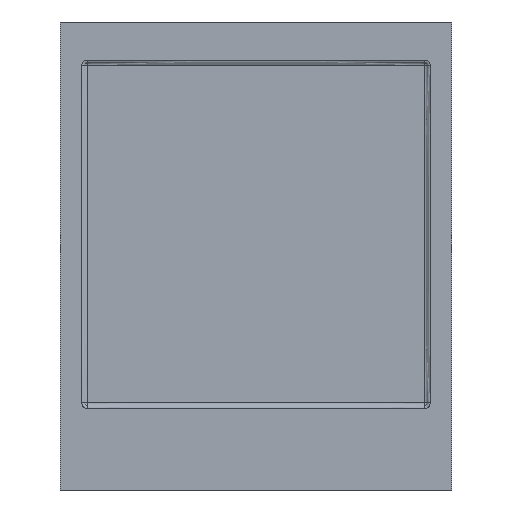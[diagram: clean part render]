
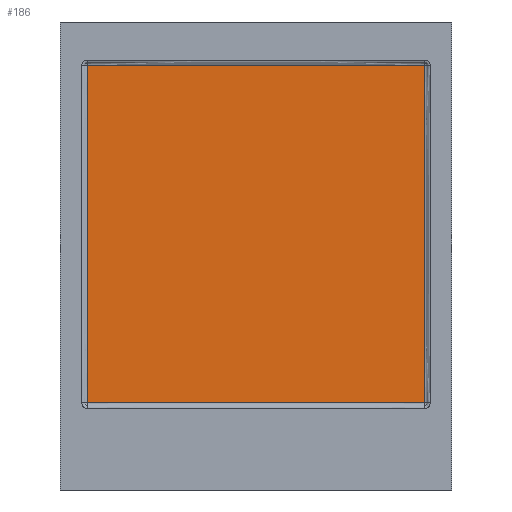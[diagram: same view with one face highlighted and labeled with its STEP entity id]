
A CAD part, front view. The second image highlights one B-rep face of the part: STEP entity #186.
In plain terms, the highlighted planar face has unit normal (0, -1, 0).
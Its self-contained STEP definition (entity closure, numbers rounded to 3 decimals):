
#186=ADVANCED_FACE('',(#290),#1632,.T.);
#290=FACE_OUTER_BOUND('',#404,.T.);
#404=EDGE_LOOP('',(#902,#903,#904,#905));
#902=ORIENTED_EDGE('',*,*,#1160,.F.);
#903=ORIENTED_EDGE('',*,*,#1157,.F.);
#904=ORIENTED_EDGE('',*,*,#1154,.F.);
#905=ORIENTED_EDGE('',*,*,#1150,.F.);
#1150=EDGE_CURVE('',#1542,#1543,#1374,.T.);
#1154=EDGE_CURVE('',#1543,#1546,#1378,.T.);
#1157=EDGE_CURVE('',#1546,#1548,#1381,.T.);
#1160=EDGE_CURVE('',#1548,#1542,#1384,.T.);
#1374=B_SPLINE_CURVE_WITH_KNOTS('',1,(#6540,#6541),.UNSPECIFIED.,.F.,.F.,
(2,2),(-4.,-3.),.UNSPECIFIED.);
#1378=B_SPLINE_CURVE_WITH_KNOTS('',1,(#6548,#6549),.UNSPECIFIED.,.F.,.F.,
(2,2),(-3.,-2.),.UNSPECIFIED.);
#1381=B_SPLINE_CURVE_WITH_KNOTS('',1,(#6554,#6555),.UNSPECIFIED.,.F.,.F.,
(2,2),(-2.,-1.),.UNSPECIFIED.);
#1384=B_SPLINE_CURVE_WITH_KNOTS('',1,(#6560,#6561),.UNSPECIFIED.,.F.,.F.,
(2,2),(-1.,0.),.UNSPECIFIED.);
#1542=VERTEX_POINT('',#6532);
#1543=VERTEX_POINT('',#6533);
#1546=VERTEX_POINT('',#6536);
#1548=VERTEX_POINT('',#6538);
#1632=PLANE('',#1804);
#1804=AXIS2_PLACEMENT_3D('',#6530,#1891,$);
#1891=DIRECTION('',(0.,-1.,0.));
#6530=CARTESIAN_POINT('',(-580.665,-302.246,-799.299));
#6532=CARTESIAN_POINT('',(-1200.665,-302.246,-799.299));
#6533=CARTESIAN_POINT('',(-1200.665,-302.246,-179.299));
#6536=CARTESIAN_POINT('',(-580.665,-302.246,-179.299));
#6538=CARTESIAN_POINT('',(-580.665,-302.246,-799.299));
#6540=CARTESIAN_POINT('',(-1200.665,-302.246,-799.299));
#6541=CARTESIAN_POINT('',(-1200.665,-302.246,-179.299));
#6548=CARTESIAN_POINT('',(-1200.665,-302.246,-179.299));
#6549=CARTESIAN_POINT('',(-580.665,-302.246,-179.299));
#6554=CARTESIAN_POINT('',(-580.665,-302.246,-179.299));
#6555=CARTESIAN_POINT('',(-580.665,-302.246,-799.299));
#6560=CARTESIAN_POINT('',(-580.665,-302.246,-799.299));
#6561=CARTESIAN_POINT('',(-1200.665,-302.246,-799.299));
